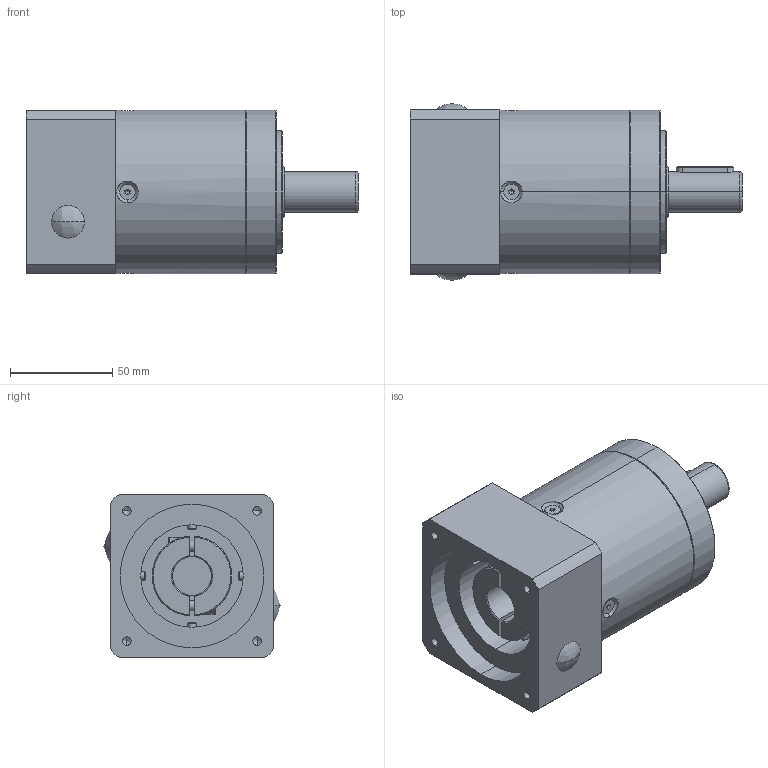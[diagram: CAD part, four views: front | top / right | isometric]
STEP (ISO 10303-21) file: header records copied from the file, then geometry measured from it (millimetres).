
FILE_DESCRIPTION (( 'STEP AP214' ), '1' );
FILE_NAME ('PLE-080-L2-S2-P2 19-70-90-M5.STEP', '2023-08-21T03:04:13', ( '微软用户' ), ( '微软中国' ), 'SwSTEP 2.0', 'SolidWorks 2018', '' );
FILE_SCHEMA (( 'AUTOMOTIVE_DESIGN' ));
Length unit declared in the file: millimetre
Products named in the file (8): PLE-080输入端盖-外形70-M5-90; hexagon socket countersunk head screws gb_GB_FASTENER_SCREWS_HSCHS M4X16-N; hexagon socket head cap screws gb_GB_FASTENER_SCREWS_HSHCS M5X16-N; PLE-080薊粣ん-俋倛19; PLE-080黑裔; PLE-080二级齿圈-外形; PLE-080-L2-S2-P2 19-70-90-M5; PLE-080怀堤埴傷裔-俋倛
Assembly tree (12 placements, depth 2):
  PLE-080-L2-S2-P2 19-70-90-M5
    PLE-080怀堤埴傷裔-俋倛
    PLE-080二级齿圈-外形
    PLE-080输入端盖-外形70-M5-90
    PLE-080薊粣ん-俋倛19
    hexagon socket countersunk head screws gb_GB_FASTENER_SCREWS_HSCHS M4X16-N  x4
    PLE-080黑裔  x2
    hexagon socket head cap screws gb_GB_FASTENER_SCREWS_HSHCS M5X16-N  x2
Bounding box: 162 x 85.92 x 80 mm (x, y, z)
Volume: 426201.8 mm3; surface area: 95996.6 mm2
Topology: 13 solids, 13 shells, 368 faces, 872 edges, 523 vertices
Faces by surface type: plane 135, cylinder 126, cone 77, bspline 30
Entity records: 8556 total; most frequent: CARTESIAN_POINT 2534, DIRECTION 1241, ORIENTED_EDGE 1136, EDGE_CURVE 568, AXIS2_PLACEMENT_3D 490, VERTEX_POINT 359, EDGE_LOOP 289, LINE 261
